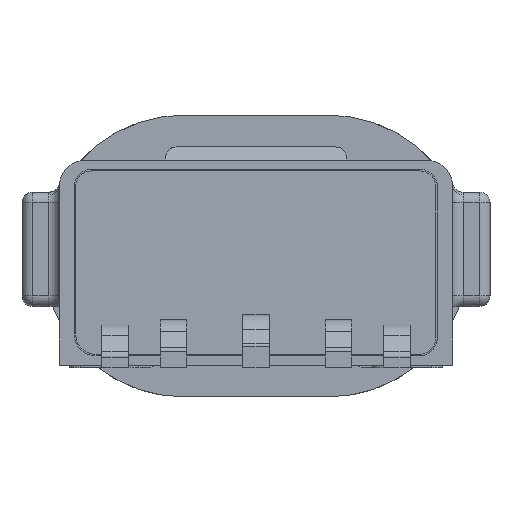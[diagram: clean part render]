
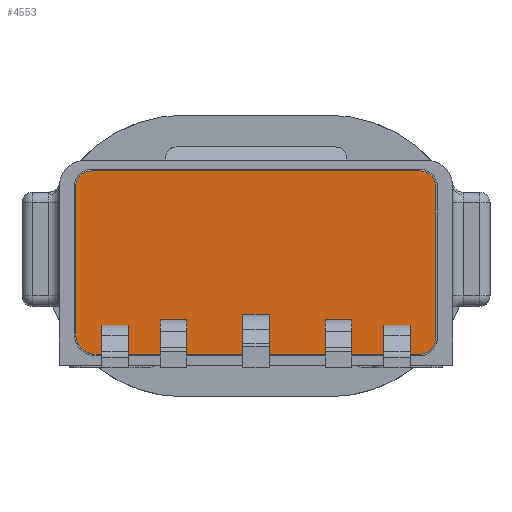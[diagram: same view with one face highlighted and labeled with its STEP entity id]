
A CAD part, front view. The second image highlights one B-rep face of the part: STEP entity #4553.
In plain terms, the highlighted planar face has unit normal (0, -1, 0).
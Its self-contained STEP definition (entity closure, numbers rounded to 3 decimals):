
#739=DIRECTION('',(1.,0.,0.));
#740=VECTOR('',#739,6.17);
#741=CARTESIAN_POINT('',(-3.09,-10.8,1.6));
#742=LINE('',#741,#740);
#743=CARTESIAN_POINT('',(3.08,-10.8,1.3));
#744=DIRECTION('',(0.,-1.,0.));
#745=DIRECTION('',(1.,0.,0.));
#746=AXIS2_PLACEMENT_3D('',#743,#744,#745);
#748=DIRECTION('',(0.,0.,-1.));
#749=VECTOR('',#748,2.836);
#750=CARTESIAN_POINT('',(3.38,-10.8,1.3));
#751=LINE('',#750,#749);
#752=CARTESIAN_POINT('',(3.066,-10.8,-1.536));
#753=DIRECTION('',(0.,-1.,0.));
#754=DIRECTION('',(0.,0.,-1.));
#755=AXIS2_PLACEMENT_3D('',#752,#753,#754);
#757=DIRECTION('',(-1.,0.,0.));
#758=VECTOR('',#757,6.072);
#759=CARTESIAN_POINT('',(3.066,-10.8,-1.85));
#760=LINE('',#759,#758);
#761=CARTESIAN_POINT('',(-3.006,-10.8,-1.466));
#762=DIRECTION('',(0.,-1.,0.));
#763=DIRECTION('',(-1.,0.,0.));
#764=AXIS2_PLACEMENT_3D('',#761,#762,#763);
#766=DIRECTION('',(0.,0.,1.));
#767=VECTOR('',#766,2.766);
#768=CARTESIAN_POINT('',(-3.39,-10.8,-1.466));
#769=LINE('',#768,#767);
#770=CARTESIAN_POINT('',(-3.09,-10.8,1.3));
#771=DIRECTION('',(0.,-1.,0.));
#772=DIRECTION('',(0.,0.,1.));
#773=AXIS2_PLACEMENT_3D('',#770,#771,#772);
#811=DIRECTION('',(0.,0.,1.));
#812=VECTOR('',#811,0.4);
#813=CARTESIAN_POINT('',(-0.25,-10.8,-1.5));
#814=LINE('',#813,#812);
#815=DIRECTION('',(1.,0.,0.));
#816=VECTOR('',#815,0.5);
#817=CARTESIAN_POINT('',(-0.25,-10.8,-1.5));
#818=LINE('',#817,#816);
#819=DIRECTION('',(0.,0.,1.));
#820=VECTOR('',#819,0.4);
#821=CARTESIAN_POINT('',(0.25,-10.8,-1.5));
#822=LINE('',#821,#820);
#823=DIRECTION('',(1.,0.,0.));
#824=VECTOR('',#823,0.5);
#825=CARTESIAN_POINT('',(-0.25,-10.8,-1.1));
#826=LINE('',#825,#824);
#827=DIRECTION('',(0.,0.,1.));
#828=VECTOR('',#827,0.3);
#829=CARTESIAN_POINT('',(1.3,-10.8,-1.5));
#830=LINE('',#829,#828);
#831=DIRECTION('',(1.,0.,0.));
#832=VECTOR('',#831,0.5);
#833=CARTESIAN_POINT('',(1.3,-10.8,-1.5));
#834=LINE('',#833,#832);
#835=DIRECTION('',(0.,0.,1.));
#836=VECTOR('',#835,0.3);
#837=CARTESIAN_POINT('',(1.8,-10.8,-1.5));
#838=LINE('',#837,#836);
#839=DIRECTION('',(1.,0.,0.));
#840=VECTOR('',#839,0.5);
#841=CARTESIAN_POINT('',(1.3,-10.8,-1.2));
#842=LINE('',#841,#840);
#843=DIRECTION('',(0.,0.,1.));
#844=VECTOR('',#843,0.3);
#845=CARTESIAN_POINT('',(-1.3,-10.8,-1.5));
#846=LINE('',#845,#844);
#847=DIRECTION('',(-1.,0.,0.));
#848=VECTOR('',#847,0.5);
#849=CARTESIAN_POINT('',(-1.3,-10.8,-1.2));
#850=LINE('',#849,#848);
#851=DIRECTION('',(0.,0.,1.));
#852=VECTOR('',#851,0.3);
#853=CARTESIAN_POINT('',(-1.8,-10.8,-1.5));
#854=LINE('',#853,#852);
#855=DIRECTION('',(-1.,0.,0.));
#856=VECTOR('',#855,0.5);
#857=CARTESIAN_POINT('',(-1.3,-10.8,-1.5));
#858=LINE('',#857,#856);
#859=DIRECTION('',(0.,0.,1.));
#860=VECTOR('',#859,0.2);
#861=CARTESIAN_POINT('',(2.4,-10.8,-1.5));
#862=LINE('',#861,#860);
#863=DIRECTION('',(1.,0.,0.));
#864=VECTOR('',#863,0.5);
#865=CARTESIAN_POINT('',(2.4,-10.8,-1.5));
#866=LINE('',#865,#864);
#867=DIRECTION('',(0.,0.,1.));
#868=VECTOR('',#867,0.2);
#869=CARTESIAN_POINT('',(2.9,-10.8,-1.5));
#870=LINE('',#869,#868);
#871=DIRECTION('',(1.,0.,0.));
#872=VECTOR('',#871,0.5);
#873=CARTESIAN_POINT('',(2.4,-10.8,-1.3));
#874=LINE('',#873,#872);
#875=DIRECTION('',(0.,0.,1.));
#876=VECTOR('',#875,0.2);
#877=CARTESIAN_POINT('',(-2.4,-10.8,-1.5));
#878=LINE('',#877,#876);
#879=DIRECTION('',(-1.,0.,0.));
#880=VECTOR('',#879,0.5);
#881=CARTESIAN_POINT('',(-2.4,-10.8,-1.3));
#882=LINE('',#881,#880);
#883=DIRECTION('',(0.,0.,1.));
#884=VECTOR('',#883,0.2);
#885=CARTESIAN_POINT('',(-2.9,-10.8,-1.5));
#886=LINE('',#885,#884);
#887=DIRECTION('',(-1.,0.,0.));
#888=VECTOR('',#887,0.5);
#889=CARTESIAN_POINT('',(-2.4,-10.8,-1.5));
#890=LINE('',#889,#888);
#2972=CARTESIAN_POINT('',(-3.09,-10.8,1.6));
#2973=CARTESIAN_POINT('',(3.08,-10.8,1.6));
#2974=VERTEX_POINT('',#2972);
#2975=VERTEX_POINT('',#2973);
#2976=CARTESIAN_POINT('',(3.38,-10.8,1.3));
#2977=VERTEX_POINT('',#2976);
#2978=CARTESIAN_POINT('',(3.38,-10.8,-1.536));
#2979=VERTEX_POINT('',#2978);
#2980=CARTESIAN_POINT('',(3.066,-10.8,-1.85));
#2981=CARTESIAN_POINT('',(-3.006,-10.8,-1.85));
#2982=VERTEX_POINT('',#2980);
#2983=VERTEX_POINT('',#2981);
#2984=CARTESIAN_POINT('',(-3.39,-10.8,-1.466));
#2985=CARTESIAN_POINT('',(-3.39,-10.8,1.3));
#2986=VERTEX_POINT('',#2984);
#2987=VERTEX_POINT('',#2985);
#3220=CARTESIAN_POINT('',(-0.25,-10.8,-1.5));
#3221=CARTESIAN_POINT('',(-0.25,-10.8,-1.1));
#3222=VERTEX_POINT('',#3220);
#3223=VERTEX_POINT('',#3221);
#3224=CARTESIAN_POINT('',(0.25,-10.8,-1.5));
#3225=CARTESIAN_POINT('',(0.25,-10.8,-1.1));
#3226=VERTEX_POINT('',#3224);
#3227=VERTEX_POINT('',#3225);
#3268=CARTESIAN_POINT('',(1.3,-10.8,-1.5));
#3269=CARTESIAN_POINT('',(1.3,-10.8,-1.2));
#3270=VERTEX_POINT('',#3268);
#3271=VERTEX_POINT('',#3269);
#3272=CARTESIAN_POINT('',(1.8,-10.8,-1.5));
#3273=CARTESIAN_POINT('',(1.8,-10.8,-1.2));
#3274=VERTEX_POINT('',#3272);
#3275=VERTEX_POINT('',#3273);
#3316=CARTESIAN_POINT('',(-1.3,-10.8,-1.5));
#3317=VERTEX_POINT('',#3316);
#3318=CARTESIAN_POINT('',(-1.3,-10.8,-1.2));
#3319=VERTEX_POINT('',#3318);
#3320=CARTESIAN_POINT('',(-1.8,-10.8,-1.5));
#3321=VERTEX_POINT('',#3320);
#3322=CARTESIAN_POINT('',(-1.8,-10.8,-1.2));
#3323=VERTEX_POINT('',#3322);
#3364=CARTESIAN_POINT('',(2.4,-10.8,-1.5));
#3365=CARTESIAN_POINT('',(2.4,-10.8,-1.3));
#3366=VERTEX_POINT('',#3364);
#3367=VERTEX_POINT('',#3365);
#3368=CARTESIAN_POINT('',(2.9,-10.8,-1.5));
#3369=CARTESIAN_POINT('',(2.9,-10.8,-1.3));
#3370=VERTEX_POINT('',#3368);
#3371=VERTEX_POINT('',#3369);
#3412=CARTESIAN_POINT('',(-2.4,-10.8,-1.5));
#3413=VERTEX_POINT('',#3412);
#3414=CARTESIAN_POINT('',(-2.4,-10.8,-1.3));
#3415=VERTEX_POINT('',#3414);
#3416=CARTESIAN_POINT('',(-2.9,-10.8,-1.5));
#3417=VERTEX_POINT('',#3416);
#3418=CARTESIAN_POINT('',(-2.9,-10.8,-1.3));
#3419=VERTEX_POINT('',#3418);
#4480=CARTESIAN_POINT('',(0.,-10.8,0.));
#4481=DIRECTION('',(0.,-1.,0.));
#4482=DIRECTION('',(1.,0.,0.));
#4483=AXIS2_PLACEMENT_3D('',#4480,#4481,#4482);
#4484=PLANE('',#4483);
#4486=ORIENTED_EDGE('',*,*,#4485,.T.);
#4488=ORIENTED_EDGE('',*,*,#4487,.F.);
#4490=ORIENTED_EDGE('',*,*,#4489,.T.);
#4492=ORIENTED_EDGE('',*,*,#4491,.F.);
#4494=ORIENTED_EDGE('',*,*,#4493,.T.);
#4496=ORIENTED_EDGE('',*,*,#4495,.F.);
#4498=ORIENTED_EDGE('',*,*,#4497,.T.);
#4500=ORIENTED_EDGE('',*,*,#4499,.F.);
#4501=EDGE_LOOP('',(#4486,#4488,#4490,#4492,#4494,#4496,#4498,#4500));
#4502=FACE_OUTER_BOUND('',#4501,.F.);
#4504=ORIENTED_EDGE('',*,*,#4503,.F.);
#4506=ORIENTED_EDGE('',*,*,#4505,.T.);
#4508=ORIENTED_EDGE('',*,*,#4507,.T.);
#4510=ORIENTED_EDGE('',*,*,#4509,.F.);
#4511=EDGE_LOOP('',(#4504,#4506,#4508,#4510));
#4512=FACE_BOUND('',#4511,.F.);
#4514=ORIENTED_EDGE('',*,*,#4513,.F.);
#4516=ORIENTED_EDGE('',*,*,#4515,.T.);
#4518=ORIENTED_EDGE('',*,*,#4517,.T.);
#4520=ORIENTED_EDGE('',*,*,#4519,.F.);
#4521=EDGE_LOOP('',(#4514,#4516,#4518,#4520));
#4522=FACE_BOUND('',#4521,.F.);
#4524=ORIENTED_EDGE('',*,*,#4523,.T.);
#4526=ORIENTED_EDGE('',*,*,#4525,.T.);
#4528=ORIENTED_EDGE('',*,*,#4527,.F.);
#4530=ORIENTED_EDGE('',*,*,#4529,.F.);
#4531=EDGE_LOOP('',(#4524,#4526,#4528,#4530));
#4532=FACE_BOUND('',#4531,.F.);
#4534=ORIENTED_EDGE('',*,*,#4533,.F.);
#4536=ORIENTED_EDGE('',*,*,#4535,.T.);
#4538=ORIENTED_EDGE('',*,*,#4537,.T.);
#4540=ORIENTED_EDGE('',*,*,#4539,.F.);
#4541=EDGE_LOOP('',(#4534,#4536,#4538,#4540));
#4542=FACE_BOUND('',#4541,.F.);
#4544=ORIENTED_EDGE('',*,*,#4543,.T.);
#4546=ORIENTED_EDGE('',*,*,#4545,.T.);
#4548=ORIENTED_EDGE('',*,*,#4547,.F.);
#4550=ORIENTED_EDGE('',*,*,#4549,.F.);
#4551=EDGE_LOOP('',(#4544,#4546,#4548,#4550));
#4552=FACE_BOUND('',#4551,.F.);
#747=CIRCLE('',#746,0.3);
#756=CIRCLE('',#755,0.314);
#765=CIRCLE('',#764,0.384);
#774=CIRCLE('',#773,0.3);
#4485=EDGE_CURVE('',#2974,#2975,#742,.T.);
#4487=EDGE_CURVE('',#2977,#2975,#747,.T.);
#4489=EDGE_CURVE('',#2977,#2979,#751,.T.);
#4491=EDGE_CURVE('',#2982,#2979,#756,.T.);
#4493=EDGE_CURVE('',#2982,#2983,#760,.T.);
#4495=EDGE_CURVE('',#2986,#2983,#765,.T.);
#4497=EDGE_CURVE('',#2986,#2987,#769,.T.);
#4499=EDGE_CURVE('',#2974,#2987,#774,.T.);
#4503=EDGE_CURVE('',#3222,#3223,#814,.T.);
#4505=EDGE_CURVE('',#3222,#3226,#818,.T.);
#4507=EDGE_CURVE('',#3226,#3227,#822,.T.);
#4509=EDGE_CURVE('',#3223,#3227,#826,.T.);
#4513=EDGE_CURVE('',#3270,#3271,#830,.T.);
#4515=EDGE_CURVE('',#3270,#3274,#834,.T.);
#4517=EDGE_CURVE('',#3274,#3275,#838,.T.);
#4519=EDGE_CURVE('',#3271,#3275,#842,.T.);
#4523=EDGE_CURVE('',#3317,#3319,#846,.T.);
#4525=EDGE_CURVE('',#3319,#3323,#850,.T.);
#4527=EDGE_CURVE('',#3321,#3323,#854,.T.);
#4529=EDGE_CURVE('',#3317,#3321,#858,.T.);
#4533=EDGE_CURVE('',#3366,#3367,#862,.T.);
#4535=EDGE_CURVE('',#3366,#3370,#866,.T.);
#4537=EDGE_CURVE('',#3370,#3371,#870,.T.);
#4539=EDGE_CURVE('',#3367,#3371,#874,.T.);
#4543=EDGE_CURVE('',#3413,#3415,#878,.T.);
#4545=EDGE_CURVE('',#3415,#3419,#882,.T.);
#4547=EDGE_CURVE('',#3417,#3419,#886,.T.);
#4549=EDGE_CURVE('',#3413,#3417,#890,.T.);
#4553=ADVANCED_FACE('',(#4502,#4512,#4522,#4532,#4542,#4552),#4484,.T.);
